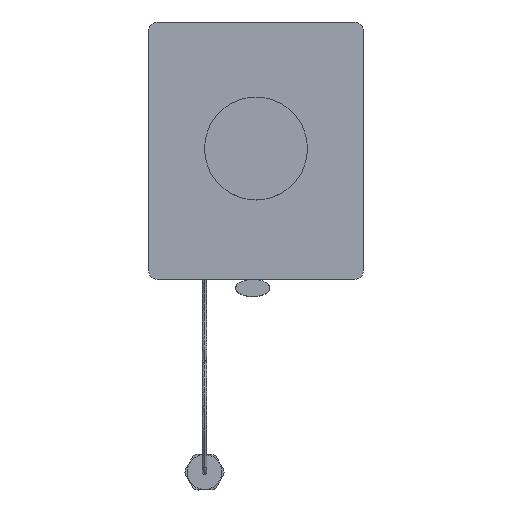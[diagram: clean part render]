
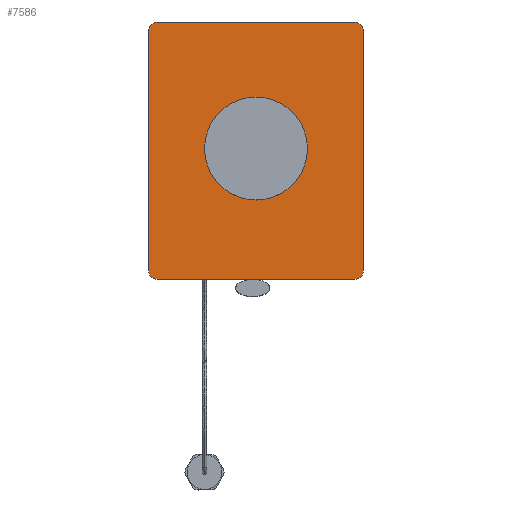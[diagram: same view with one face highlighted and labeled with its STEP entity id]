
A CAD part, top view. The second image highlights one B-rep face of the part: STEP entity #7586.
In plain terms, the highlighted planar face has unit normal (0, 0, 1).
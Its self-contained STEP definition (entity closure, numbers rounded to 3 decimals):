
#1597=CARTESIAN_POINT('',(-115.,137.699,-45.491));
#1598=DIRECTION('',(0.,0.,1.));
#1599=DIRECTION('',(0.,1.,0.));
#1600=AXIS2_PLACEMENT_3D('',#1597,#1598,#1599);
#1602=DIRECTION('',(1.,0.,0.));
#1603=VECTOR('',#1602,230.);
#1604=CARTESIAN_POINT('',(-115.,147.699,-45.491));
#1605=LINE('',#1604,#1603);
#1606=CARTESIAN_POINT('',(115.,137.699,-45.491));
#1607=DIRECTION('',(0.,0.,1.));
#1608=DIRECTION('',(1.,0.,0.));
#1609=AXIS2_PLACEMENT_3D('',#1606,#1607,#1608);
#1611=DIRECTION('',(0.,-1.,0.));
#1612=VECTOR('',#1611,280.);
#1613=CARTESIAN_POINT('',(125.,137.699,-45.491));
#1614=LINE('',#1613,#1612);
#1615=CARTESIAN_POINT('',(115.,-142.301,-45.491));
#1616=DIRECTION('',(0.,0.,1.));
#1617=DIRECTION('',(0.,-1.,0.));
#1618=AXIS2_PLACEMENT_3D('',#1615,#1616,#1617);
#1620=DIRECTION('',(-1.,0.,0.));
#1621=VECTOR('',#1620,230.);
#1622=CARTESIAN_POINT('',(115.,-152.301,-45.491));
#1623=LINE('',#1622,#1621);
#1624=CARTESIAN_POINT('',(-115.,-142.301,-45.491));
#1625=DIRECTION('',(0.,0.,1.));
#1626=DIRECTION('',(-1.,0.,0.));
#1627=AXIS2_PLACEMENT_3D('',#1624,#1625,#1626);
#1629=DIRECTION('',(0.,1.,0.));
#1630=VECTOR('',#1629,280.);
#1631=CARTESIAN_POINT('',(-125.,-142.301,-45.491));
#1632=LINE('',#1631,#1630);
#1633=CARTESIAN_POINT('',(0.,0.,-45.491));
#1634=DIRECTION('',(0.,0.,1.));
#1635=DIRECTION('',(0.,1.,0.));
#1636=AXIS2_PLACEMENT_3D('',#1633,#1634,#1635);
#1638=CARTESIAN_POINT('',(0.,0.,-45.491));
#1639=DIRECTION('',(0.,0.,1.));
#1640=DIRECTION('',(0.,-1.,0.));
#1641=AXIS2_PLACEMENT_3D('',#1638,#1639,#1640);
#5064=CARTESIAN_POINT('',(0.,15.7,-45.491));
#5065=CARTESIAN_POINT('',(0.,-15.7,-45.491));
#5066=VERTEX_POINT('',#5064);
#5067=VERTEX_POINT('',#5065);
#5068=CARTESIAN_POINT('',(-115.,147.699,-45.491));
#5069=CARTESIAN_POINT('',(-125.,137.699,-45.491));
#5070=VERTEX_POINT('',#5068);
#5071=VERTEX_POINT('',#5069);
#5076=CARTESIAN_POINT('',(-125.,-142.301,-45.491));
#5077=CARTESIAN_POINT('',(-115.,-152.301,-45.491));
#5078=VERTEX_POINT('',#5076);
#5079=VERTEX_POINT('',#5077);
#5084=CARTESIAN_POINT('',(115.,-152.301,-45.491));
#5085=CARTESIAN_POINT('',(125.,-142.301,-45.491));
#5086=VERTEX_POINT('',#5084);
#5087=VERTEX_POINT('',#5085);
#5092=CARTESIAN_POINT('',(125.,137.699,-45.491));
#5093=CARTESIAN_POINT('',(115.,147.699,-45.491));
#5094=VERTEX_POINT('',#5092);
#5095=VERTEX_POINT('',#5093);
#7558=CARTESIAN_POINT('',(0.,0.,-45.491));
#7559=DIRECTION('',(0.,0.,-1.));
#7560=DIRECTION('',(0.,-1.,0.));
#7561=AXIS2_PLACEMENT_3D('',#7558,#7559,#7560);
#7562=PLANE('',#7561);
#7563=ORIENTED_EDGE('',*,*,#7548,.F.);
#7565=ORIENTED_EDGE('',*,*,#7564,.T.);
#7567=ORIENTED_EDGE('',*,*,#7566,.F.);
#7569=ORIENTED_EDGE('',*,*,#7568,.T.);
#7571=ORIENTED_EDGE('',*,*,#7570,.F.);
#7573=ORIENTED_EDGE('',*,*,#7572,.T.);
#7575=ORIENTED_EDGE('',*,*,#7574,.F.);
#7577=ORIENTED_EDGE('',*,*,#7576,.T.);
#7578=EDGE_LOOP('',(#7563,#7565,#7567,#7569,#7571,#7573,#7575,#7577));
#7579=FACE_OUTER_BOUND('',#7578,.F.);
#7581=ORIENTED_EDGE('',*,*,#7580,.T.);
#7583=ORIENTED_EDGE('',*,*,#7582,.T.);
#7584=EDGE_LOOP('',(#7581,#7583));
#7585=FACE_BOUND('',#7584,.F.);
#7586=ADVANCED_FACE('',(#7579,#7585),#7562,.F.);
#1601=CIRCLE('',#1600,10.);
#1610=CIRCLE('',#1609,10.);
#1619=CIRCLE('',#1618,10.);
#1628=CIRCLE('',#1627,10.);
#1637=CIRCLE('',#1636,15.7);
#1642=CIRCLE('',#1641,15.7);
#7548=EDGE_CURVE('',#5070,#5071,#1601,.T.);
#7564=EDGE_CURVE('',#5070,#5095,#1605,.T.);
#7566=EDGE_CURVE('',#5094,#5095,#1610,.T.);
#7568=EDGE_CURVE('',#5094,#5087,#1614,.T.);
#7570=EDGE_CURVE('',#5086,#5087,#1619,.T.);
#7572=EDGE_CURVE('',#5086,#5079,#1623,.T.);
#7574=EDGE_CURVE('',#5078,#5079,#1628,.T.);
#7576=EDGE_CURVE('',#5078,#5071,#1632,.T.);
#7580=EDGE_CURVE('',#5066,#5067,#1637,.T.);
#7582=EDGE_CURVE('',#5067,#5066,#1642,.T.);
